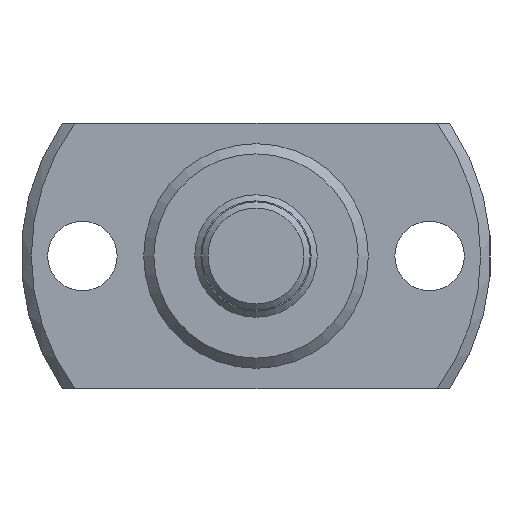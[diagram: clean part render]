
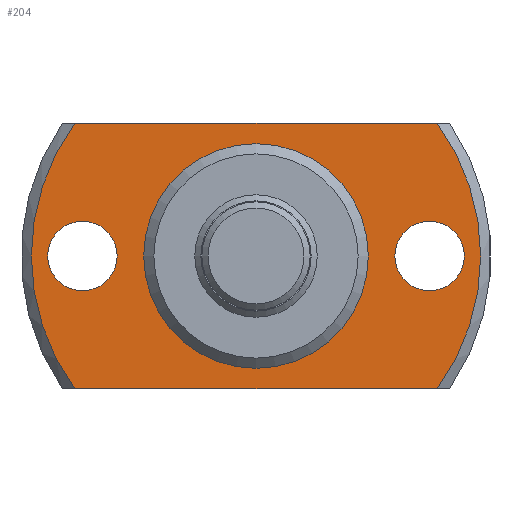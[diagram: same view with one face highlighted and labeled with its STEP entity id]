
A CAD part, left-side view. The second image highlights one B-rep face of the part: STEP entity #204.
In plain terms, the highlighted planar face has unit normal (-1, 0, 0).
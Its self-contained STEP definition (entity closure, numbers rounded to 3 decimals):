
#204 = ADVANCED_FACE( '', ( #278, #279, #280, #281 ), #282, .F. );
#278 = FACE_OUTER_BOUND( '', #374, .T. );
#279 = FACE_BOUND( '', #375, .T. );
#280 = FACE_BOUND( '', #376, .T. );
#281 = FACE_BOUND( '', #377, .T. );
#282 = PLANE( '', #378 );
#374 = EDGE_LOOP( '', ( #553, #554, #555, #556 ) );
#375 = EDGE_LOOP( '', ( #557 ) );
#376 = EDGE_LOOP( '', ( #558 ) );
#377 = EDGE_LOOP( '', ( #559 ) );
#378 = AXIS2_PLACEMENT_3D( '', #560, #561, #562 );
#553 = ORIENTED_EDGE( '', *, *, #672, .F. );
#554 = ORIENTED_EDGE( '', *, *, #673, .F. );
#555 = ORIENTED_EDGE( '', *, *, #674, .F. );
#556 = ORIENTED_EDGE( '', *, *, #657, .F. );
#557 = ORIENTED_EDGE( '', *, *, #675, .T. );
#558 = ORIENTED_EDGE( '', *, *, #676, .T. );
#559 = ORIENTED_EDGE( '', *, *, #677, .T. );
#560 = CARTESIAN_POINT( '', ( 11., 5.35, 0. ) );
#561 = DIRECTION( '', ( 1., 0., 0. ) );
#562 = DIRECTION( '', ( 0., 0., -1. ) );
#657 = EDGE_CURVE( '', #738, #725, #740, .T. );
#672 = EDGE_CURVE( '', #763, #738, #765, .T. );
#673 = EDGE_CURVE( '', #766, #763, #767, .T. );
#674 = EDGE_CURVE( '', #725, #766, #768, .T. );
#675 = EDGE_CURVE( '', #769, #769, #770, .T. );
#676 = EDGE_CURVE( '', #771, #771, #772, .T. );
#677 = EDGE_CURVE( '', #773, #773, #774, .T. );
#725 = VERTEX_POINT( '', #835 );
#738 = VERTEX_POINT( '', #860 );
#740 = LINE( '', #865, #866 );
#763 = VERTEX_POINT( '', #895 );
#765 = CIRCLE( '', #900, 11. );
#766 = VERTEX_POINT( '', #901 );
#767 = LINE( '', #902, #903 );
#768 = CIRCLE( '', #904, 11. );
#769 = VERTEX_POINT( '', #905 );
#770 = CIRCLE( '', #906, 1.7 );
#771 = VERTEX_POINT( '', #907 );
#772 = CIRCLE( '', #908, 1.7 );
#773 = VERTEX_POINT( '', #909 );
#774 = CIRCLE( '', #910, 5.35 );
#835 = CARTESIAN_POINT( '', ( 11., -8.874, 6.5 ) );
#860 = CARTESIAN_POINT( '', ( 11., 8.874, 6.5 ) );
#865 = CARTESIAN_POINT( '', ( 11., 23., 6.5 ) );
#866 = VECTOR( '', #982, 1000. );
#895 = CARTESIAN_POINT( '', ( 11., 8.874, -6.5 ) );
#900 = AXIS2_PLACEMENT_3D( '', #1013, #1014, #1015 );
#901 = CARTESIAN_POINT( '', ( 11., -8.874, -6.5 ) );
#902 = CARTESIAN_POINT( '', ( 11., -23., -6.5 ) );
#903 = VECTOR( '', #1016, 1000. );
#904 = AXIS2_PLACEMENT_3D( '', #1017, #1018, #1019 );
#905 = CARTESIAN_POINT( '', ( 11., 8.5, -1.7 ) );
#906 = AXIS2_PLACEMENT_3D( '', #1020, #1021, #1022 );
#907 = CARTESIAN_POINT( '', ( 11., -8.5, -1.7 ) );
#908 = AXIS2_PLACEMENT_3D( '', #1023, #1024, #1025 );
#909 = CARTESIAN_POINT( '', ( 11., 0., -5.35 ) );
#910 = AXIS2_PLACEMENT_3D( '', #1026, #1027, #1028 );
#982 = DIRECTION( '', ( 0., -1., 0. ) );
#1013 = CARTESIAN_POINT( '', ( 11., 0., 0. ) );
#1014 = DIRECTION( '', ( 1., 0., 0. ) );
#1015 = DIRECTION( '', ( 0., 0., -1. ) );
#1016 = DIRECTION( '', ( 0., 1., 0. ) );
#1017 = CARTESIAN_POINT( '', ( 11., 0., 0. ) );
#1018 = DIRECTION( '', ( 1., 0., 0. ) );
#1019 = DIRECTION( '', ( 0., 0., -1. ) );
#1020 = CARTESIAN_POINT( '', ( 11., 8.5, 0. ) );
#1021 = DIRECTION( '', ( 1., 0., 0. ) );
#1022 = DIRECTION( '', ( 0., 0., -1. ) );
#1023 = CARTESIAN_POINT( '', ( 11., -8.5, 0. ) );
#1024 = DIRECTION( '', ( 1., 0., 0. ) );
#1025 = DIRECTION( '', ( 0., 0., -1. ) );
#1026 = CARTESIAN_POINT( '', ( 11., 0., 0. ) );
#1027 = DIRECTION( '', ( 1., 0., 0. ) );
#1028 = DIRECTION( '', ( 0., 0., -1. ) );
